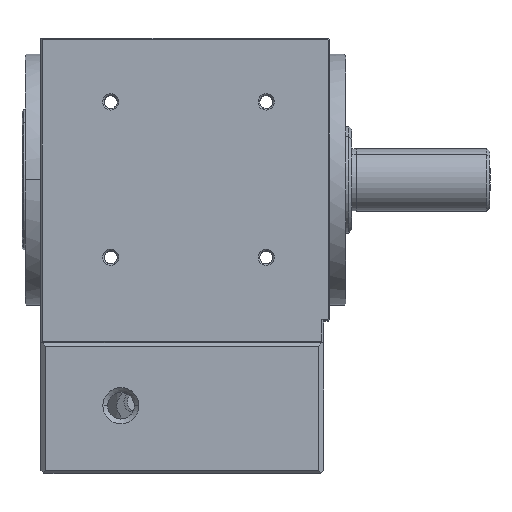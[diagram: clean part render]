
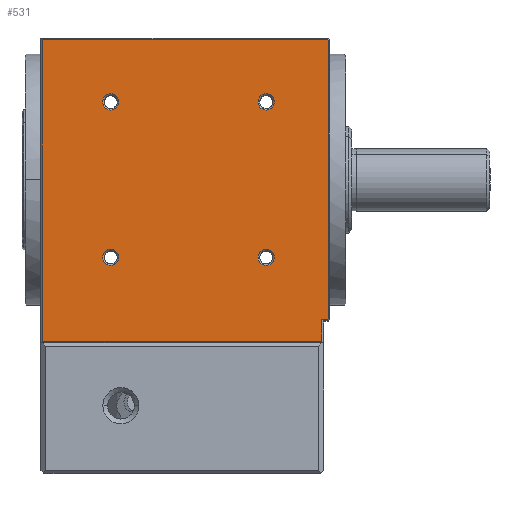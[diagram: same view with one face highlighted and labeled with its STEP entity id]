
A CAD part, top view. The second image highlights one B-rep face of the part: STEP entity #531.
In plain terms, the highlighted planar face has unit normal (0, 0, 1).
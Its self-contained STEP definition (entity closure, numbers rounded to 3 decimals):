
#16 = EDGE_CURVE ( 'NONE', #4417, #5093, #6239, .T. ) ;
#61 = EDGE_CURVE ( 'NONE', #5093, #3796, #2841, .T. ) ;
#110 = EDGE_CURVE ( 'NONE', #3796, #630, #2492, .T. ) ;
#132 = ORIENTED_EDGE ( 'NONE', *, *, #6371, .T. ) ;
#151 = EDGE_LOOP ( 'NONE', ( #669, #5690, #3085, #1189, #5236, #6991, #4683, #2607 ) ) ;
#152 = EDGE_CURVE ( 'NONE', #630, #5578, #5182, .T. ) ;
#192 = CARTESIAN_POINT ( 'NONE',  ( 2068.189, 357.908, 45. ) ) ;
#275 = VERTEX_POINT ( 'NONE', #192 ) ;
#305 = DIRECTION ( 'NONE',  ( -1., 0., 0. ) ) ;
#328 = ORIENTED_EDGE ( 'NONE', *, *, #7240, .T. ) ;
#394 = DIRECTION ( 'NONE',  ( 1., 0., 0. ) ) ;
#435 = CARTESIAN_POINT ( 'NONE',  ( 2139.437, 338.157, 45. ) ) ;
#445 = CARTESIAN_POINT ( 'NONE',  ( 2142.037, 338.157, 45. ) ) ;
#500 = LINE ( 'NONE', #3755, #6426 ) ;
#521 = EDGE_LOOP ( 'NONE', ( #3772, #328 ) ) ;
#531 = ADVANCED_FACE ( 'NONE', ( #689, #2228, #5101, #5285, #3589 ), #3459, .T. ) ;
#552 = AXIS2_PLACEMENT_3D ( 'NONE', #2537, #6523, #4272 ) ;
#593 = VERTEX_POINT ( 'NONE', #2372 ) ;
#614 = CARTESIAN_POINT ( 'NONE',  ( 2139.437, 288.659, 45. ) ) ;
#630 = VERTEX_POINT ( 'NONE', #1433 ) ;
#669 = ORIENTED_EDGE ( 'NONE', *, *, #7270, .T. ) ;
#688 = VECTOR ( 'NONE', #1930, 1000. ) ;
#689 = FACE_OUTER_BOUND ( 'NONE', #151, .T. ) ;
#760 = ORIENTED_EDGE ( 'NONE', *, *, #6762, .T. ) ;
#879 = CIRCLE ( 'NONE', #552, 2.6 ) ;
#1022 = DIRECTION ( 'NONE',  ( 1., 0., 0. ) ) ;
#1060 = AXIS2_PLACEMENT_3D ( 'NONE', #7264, #3869, #394 ) ;
#1075 = ORIENTED_EDGE ( 'NONE', *, *, #6942, .T. ) ;
#1154 = CIRCLE ( 'NONE', #5616, 2.6 ) ;
#1189 = ORIENTED_EDGE ( 'NONE', *, *, #7424, .T. ) ;
#1197 = DIRECTION ( 'NONE',  ( 1., 0., 0. ) ) ;
#1377 = DIRECTION ( 'NONE',  ( 0., 0., -1. ) ) ;
#1380 = AXIS2_PLACEMENT_3D ( 'NONE', #6725, #3439, #6764 ) ;
#1407 = CARTESIAN_POINT ( 'NONE',  ( 2157.189, 261.908, 45. ) ) ;
#1433 = CARTESIAN_POINT ( 'NONE',  ( 2158.981, 268.908, 45. ) ) ;
#1492 = VECTOR ( 'NONE', #3535, 1000. ) ;
#1537 = VERTEX_POINT ( 'NONE', #5144 ) ;
#1663 = VECTOR ( 'NONE', #6519, 1000. ) ;
#1765 = DIRECTION ( 'NONE',  ( 0., 0., -1. ) ) ;
#1813 = CARTESIAN_POINT ( 'NONE',  ( 2142.037, 288.659, 45. ) ) ;
#1930 = DIRECTION ( 'NONE',  ( 0., 1., 0. ) ) ;
#2095 = DIRECTION ( 'NONE',  ( 0., -1., 0. ) ) ;
#2190 = CARTESIAN_POINT ( 'NONE',  ( 2136.837, 288.659, 45. ) ) ;
#2228 = FACE_BOUND ( 'NONE', #521, .T. ) ;
#2289 = VERTEX_POINT ( 'NONE', #2190 ) ;
#2306 = VECTOR ( 'NONE', #2579, 1000. ) ;
#2372 = CARTESIAN_POINT ( 'NONE',  ( 2087.34, 288.659, 45. ) ) ;
#2397 = CARTESIAN_POINT ( 'NONE',  ( 945.037, -945.037, 45. ) ) ;
#2492 = LINE ( 'NONE', #3438, #1492 ) ;
#2537 = CARTESIAN_POINT ( 'NONE',  ( 2089.94, 288.659, 45. ) ) ;
#2579 = DIRECTION ( 'NONE',  ( 0.707, 0.707, 0. ) ) ;
#2584 = VERTEX_POINT ( 'NONE', #445 ) ;
#2607 = ORIENTED_EDGE ( 'NONE', *, *, #152, .T. ) ;
#2613 = CARTESIAN_POINT ( 'NONE',  ( 2067.689, 357.908, 45. ) ) ;
#2768 = CARTESIAN_POINT ( 'NONE',  ( 2089.94, 288.659, 45. ) ) ;
#2841 = LINE ( 'NONE', #5152, #5700 ) ;
#2843 = EDGE_LOOP ( 'NONE', ( #132, #760 ) ) ;
#2846 = VECTOR ( 'NONE', #2095, 1000. ) ;
#2931 = CARTESIAN_POINT ( 'NONE',  ( 2157.189, 268.908, 45. ) ) ;
#3076 = CARTESIAN_POINT ( 'NONE',  ( 2139.437, 288.659, 45. ) ) ;
#3085 = ORIENTED_EDGE ( 'NONE', *, *, #7375, .T. ) ;
#3181 = AXIS2_PLACEMENT_3D ( 'NONE', #5227, #1765, #5776 ) ;
#3195 = ORIENTED_EDGE ( 'NONE', *, *, #7086, .T. ) ;
#3219 = VECTOR ( 'NONE', #305, 1000. ) ;
#3359 = DIRECTION ( 'NONE',  ( 1., 0., 0. ) ) ;
#3410 = AXIS2_PLACEMENT_3D ( 'NONE', #614, #4640, #1197 ) ;
#3438 = CARTESIAN_POINT ( 'NONE',  ( 0., 268.908, 45. ) ) ;
#3439 = DIRECTION ( 'NONE',  ( 0., 0., 1. ) ) ;
#3459 = PLANE ( 'NONE',  #1380 ) ;
#3535 = DIRECTION ( 'NONE',  ( 1., 0., 0. ) ) ;
#3589 = FACE_BOUND ( 'NONE', #2843, .T. ) ;
#3605 = ORIENTED_EDGE ( 'NONE', *, *, #6000, .T. ) ;
#3629 = CARTESIAN_POINT ( 'NONE',  ( 2068.189, 261.908, 45. ) ) ;
#3657 = DIRECTION ( 'NONE',  ( 1., 0., 0. ) ) ;
#3681 = CIRCLE ( 'NONE', #4954, 2.6 ) ;
#3719 = VERTEX_POINT ( 'NONE', #5157 ) ;
#3755 = CARTESIAN_POINT ( 'NONE',  ( 1258.445, 1258.445, 45. ) ) ;
#3772 = ORIENTED_EDGE ( 'NONE', *, *, #5327, .T. ) ;
#3796 = VERTEX_POINT ( 'NONE', #2931 ) ;
#3801 = VERTEX_POINT ( 'NONE', #6922 ) ;
#3869 = DIRECTION ( 'NONE',  ( 0., 0., -1. ) ) ;
#3972 = CIRCLE ( 'NONE', #3181, 2.6 ) ;
#4211 = VERTEX_POINT ( 'NONE', #4520 ) ;
#4250 = CARTESIAN_POINT ( 'NONE',  ( 2159.189, 0., 45. ) ) ;
#4272 = DIRECTION ( 'NONE',  ( 1., 0., 0. ) ) ;
#4321 = DIRECTION ( 'NONE',  ( -0.707, 0.707, 0. ) ) ;
#4384 = EDGE_LOOP ( 'NONE', ( #3605, #1075 ) ) ;
#4385 = LINE ( 'NONE', #7215, #2846 ) ;
#4417 = VERTEX_POINT ( 'NONE', #3629 ) ;
#4461 = DIRECTION ( 'NONE',  ( 0., 0., -1. ) ) ;
#4520 = CARTESIAN_POINT ( 'NONE',  ( 2159.189, 357.701, 45. ) ) ;
#4602 = VERTEX_POINT ( 'NONE', #5535 ) ;
#4640 = DIRECTION ( 'NONE',  ( 0., 0., -1. ) ) ;
#4683 = ORIENTED_EDGE ( 'NONE', *, *, #110, .T. ) ;
#4739 = LINE ( 'NONE', #2613, #3219 ) ;
#4779 = CARTESIAN_POINT ( 'NONE',  ( 2159.189, 269.115, 45. ) ) ;
#4818 = CARTESIAN_POINT ( 'NONE',  ( 2089.94, 338.157, 45. ) ) ;
#4951 = CARTESIAN_POINT ( 'NONE',  ( 2092.54, 338.157, 45. ) ) ;
#4954 = AXIS2_PLACEMENT_3D ( 'NONE', #435, #4461, #1022 ) ;
#5093 = VERTEX_POINT ( 'NONE', #1407 ) ;
#5101 = FACE_BOUND ( 'NONE', #6608, .T. ) ;
#5144 = CARTESIAN_POINT ( 'NONE',  ( 2087.34, 338.157, 45. ) ) ;
#5152 = CARTESIAN_POINT ( 'NONE',  ( 2157.189, 268.408, 45. ) ) ;
#5157 = CARTESIAN_POINT ( 'NONE',  ( 2158.981, 357.908, 45. ) ) ;
#5182 = LINE ( 'NONE', #2397, #2306 ) ;
#5208 = CIRCLE ( 'NONE', #1060, 2.6 ) ;
#5213 = DIRECTION ( 'NONE',  ( 0., 1., 0. ) ) ;
#5227 = CARTESIAN_POINT ( 'NONE',  ( 2139.437, 338.157, 45. ) ) ;
#5236 = ORIENTED_EDGE ( 'NONE', *, *, #16, .T. ) ;
#5284 = LINE ( 'NONE', #4250, #688 ) ;
#5285 = FACE_BOUND ( 'NONE', #4384, .T. ) ;
#5327 = EDGE_CURVE ( 'NONE', #4602, #593, #6793, .T. ) ;
#5398 = ORIENTED_EDGE ( 'NONE', *, *, #5581, .T. ) ;
#5400 = DIRECTION ( 'NONE',  ( 1., 0., 0. ) ) ;
#5535 = CARTESIAN_POINT ( 'NONE',  ( 2092.54, 288.659, 45. ) ) ;
#5578 = VERTEX_POINT ( 'NONE', #4779 ) ;
#5581 = EDGE_CURVE ( 'NONE', #6101, #2289, #1154, .T. ) ;
#5616 = AXIS2_PLACEMENT_3D ( 'NONE', #3076, #7051, #3657 ) ;
#5690 = ORIENTED_EDGE ( 'NONE', *, *, #7317, .T. ) ;
#5700 = VECTOR ( 'NONE', #5213, 1000. ) ;
#5776 = DIRECTION ( 'NONE',  ( 1., 0., 0. ) ) ;
#6000 = EDGE_CURVE ( 'NONE', #2584, #3801, #3972, .T. ) ;
#6101 = VERTEX_POINT ( 'NONE', #1813 ) ;
#6159 = CIRCLE ( 'NONE', #3410, 2.6 ) ;
#6216 = AXIS2_PLACEMENT_3D ( 'NONE', #4818, #1377, #5400 ) ;
#6239 = LINE ( 'NONE', #6575, #1663 ) ;
#6257 = CIRCLE ( 'NONE', #6216, 2.6 ) ;
#6371 = EDGE_CURVE ( 'NONE', #7402, #1537, #5208, .T. ) ;
#6426 = VECTOR ( 'NONE', #4321, 1000. ) ;
#6519 = DIRECTION ( 'NONE',  ( 1., 0., 0. ) ) ;
#6523 = DIRECTION ( 'NONE',  ( 0., 0., -1. ) ) ;
#6575 = CARTESIAN_POINT ( 'NONE',  ( 2157.689, 261.908, 45. ) ) ;
#6608 = EDGE_LOOP ( 'NONE', ( #5398, #3195 ) ) ;
#6725 = CARTESIAN_POINT ( 'NONE',  ( 0., 0., 45. ) ) ;
#6762 = EDGE_CURVE ( 'NONE', #1537, #7402, #6257, .T. ) ;
#6764 = DIRECTION ( 'NONE',  ( 1., 0., 0. ) ) ;
#6768 = DIRECTION ( 'NONE',  ( 0., 0., -1. ) ) ;
#6793 = CIRCLE ( 'NONE', #7097, 2.6 ) ;
#6922 = CARTESIAN_POINT ( 'NONE',  ( 2136.837, 338.157, 45. ) ) ;
#6942 = EDGE_CURVE ( 'NONE', #3801, #2584, #3681, .T. ) ;
#6991 = ORIENTED_EDGE ( 'NONE', *, *, #61, .T. ) ;
#7051 = DIRECTION ( 'NONE',  ( 0., 0., -1. ) ) ;
#7086 = EDGE_CURVE ( 'NONE', #2289, #6101, #6159, .T. ) ;
#7097 = AXIS2_PLACEMENT_3D ( 'NONE', #2768, #6768, #3359 ) ;
#7215 = CARTESIAN_POINT ( 'NONE',  ( 2068.189, 261.408, 45. ) ) ;
#7240 = EDGE_CURVE ( 'NONE', #593, #4602, #879, .T. ) ;
#7264 = CARTESIAN_POINT ( 'NONE',  ( 2089.94, 338.157, 45. ) ) ;
#7270 = EDGE_CURVE ( 'NONE', #5578, #4211, #5284, .T. ) ;
#7317 = EDGE_CURVE ( 'NONE', #4211, #3719, #500, .T. ) ;
#7375 = EDGE_CURVE ( 'NONE', #3719, #275, #4739, .T. ) ;
#7402 = VERTEX_POINT ( 'NONE', #4951 ) ;
#7424 = EDGE_CURVE ( 'NONE', #275, #4417, #4385, .T. ) ;
